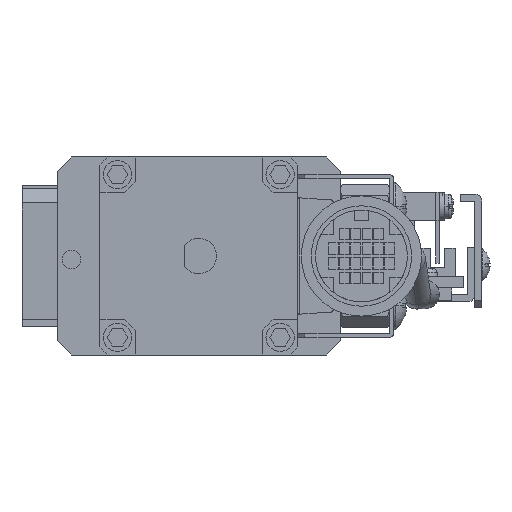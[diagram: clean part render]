
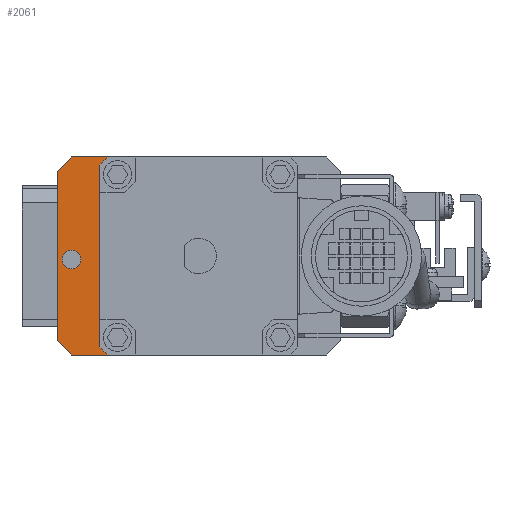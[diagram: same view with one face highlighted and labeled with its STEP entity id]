
A CAD part, left-side view. The second image highlights one B-rep face of the part: STEP entity #2061.
In plain terms, the highlighted planar face has unit normal (-1, 0, 0).
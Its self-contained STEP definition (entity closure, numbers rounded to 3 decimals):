
#393 = DIRECTION ( 'NONE',  ( 0., 1., 0. ) ) ;
#607 = CARTESIAN_POINT ( 'NONE',  ( -80.5, 0., -4. ) ) ;
#854 = ORIENTED_EDGE ( 'NONE', *, *, #65025, .F. ) ;
#866 = EDGE_CURVE ( 'NONE', #1699, #12028, #21255, .T. ) ;
#885 = CARTESIAN_POINT ( 'NONE',  ( -80.5, 16.7, 9.5 ) ) ;
#1191 = VECTOR ( 'NONE', #56565, 1000. ) ;
#1290 = PLANE ( 'NONE',  #39830 ) ;
#1395 = ORIENTED_EDGE ( 'NONE', *, *, #866, .F. ) ;
#1699 = VERTEX_POINT ( 'NONE', #33315 ) ;
#2061 = ADVANCED_FACE ( 'NONE', ( #21209, #7788 ), #1290, .T. ) ;
#2212 = CARTESIAN_POINT ( 'NONE',  ( -80.5, 14., -2.845 ) ) ;
#3324 = LINE ( 'NONE', #13881, #26156 ) ;
#4814 = CARTESIAN_POINT ( 'NONE',  ( -80.5, 18., 9.5 ) ) ;
#5005 = EDGE_CURVE ( 'NONE', #55314, #58124, #32565, .T. ) ;
#5009 = CARTESIAN_POINT ( 'NONE',  ( -80.5, 14., -2.845 ) ) ;
#6383 = CARTESIAN_POINT ( 'NONE',  ( -80.5, 20., 10. ) ) ;
#6521 = DIRECTION ( 'NONE',  ( 0., -1., 0. ) ) ;
#7294 = CARTESIAN_POINT ( 'NONE',  ( -80.5, 18., 9.5 ) ) ;
#7788 = FACE_BOUND ( 'NONE', #56326, .T. ) ;
#9209 = ORIENTED_EDGE ( 'NONE', *, *, #26629, .T. ) ;
#9702 = CARTESIAN_POINT ( 'NONE',  ( -80.5, 20., 22. ) ) ;
#10152 = CIRCLE ( 'NONE', #18027, 19. ) ;
#11184 = CARTESIAN_POINT ( 'NONE',  ( -80.5, 0., 10. ) ) ;
#11366 = CARTESIAN_POINT ( 'NONE',  ( -80.5, 0., 10. ) ) ;
#11875 = DIRECTION ( 'NONE',  ( 0., 0.737, 0.676 ) ) ;
#12028 = VERTEX_POINT ( 'NONE', #41355 ) ;
#12083 = DIRECTION ( 'NONE',  ( 0., 0., 1. ) ) ;
#13881 = CARTESIAN_POINT ( 'NONE',  ( -80.5, 16., 26. ) ) ;
#14724 = EDGE_CURVE ( 'NONE', #35269, #45225, #47295, .T. ) ;
#15157 = AXIS2_PLACEMENT_3D ( 'NONE', #4814, #55408, #39870 ) ;
#15512 = ORIENTED_EDGE ( 'NONE', *, *, #26657, .T. ) ;
#16226 = AXIS2_PLACEMENT_3D ( 'NONE', #7294, #16785, #47243 ) ;
#16785 = DIRECTION ( 'NONE',  ( 1., 0., 0. ) ) ;
#18027 = AXIS2_PLACEMENT_3D ( 'NONE', #11184, #26340, #31366 ) ;
#19051 = EDGE_CURVE ( 'NONE', #1699, #58124, #3324, .T. ) ;
#19389 = CIRCLE ( 'NONE', #36736, 19. ) ;
#19678 = VERTEX_POINT ( 'NONE', #34837 ) ;
#21193 = CARTESIAN_POINT ( 'NONE',  ( -80.5, 14., 22.845 ) ) ;
#21209 = FACE_OUTER_BOUND ( 'NONE', #39108, .T. ) ;
#21255 = LINE ( 'NONE', #24764, #50209 ) ;
#21484 = DIRECTION ( 'NONE',  ( -1., 0., 0. ) ) ;
#21520 = ORIENTED_EDGE ( 'NONE', *, *, #14724, .T. ) ;
#22381 = ORIENTED_EDGE ( 'NONE', *, *, #19051, .T. ) ;
#22399 = DIRECTION ( 'NONE',  ( 1., 0., 0. ) ) ;
#23273 = LINE ( 'NONE', #2212, #56208 ) ;
#24764 = CARTESIAN_POINT ( 'NONE',  ( -80.5, 0., 24. ) ) ;
#26156 = VECTOR ( 'NONE', #33829, 1000. ) ;
#26340 = DIRECTION ( 'NONE',  ( 1., 0., 0. ) ) ;
#26629 = EDGE_CURVE ( 'NONE', #59241, #48559, #23273, .T. ) ;
#26657 = EDGE_CURVE ( 'NONE', #48559, #12028, #19389, .T. ) ;
#26964 = VECTOR ( 'NONE', #393, 1000. ) ;
#27584 = EDGE_CURVE ( 'NONE', #45225, #35269, #48598, .T. ) ;
#28951 = LINE ( 'NONE', #56004, #32090 ) ;
#30081 = CARTESIAN_POINT ( 'NONE',  ( -80.5, 20., -2. ) ) ;
#31366 = DIRECTION ( 'NONE',  ( 0., 0.676, -0.737 ) ) ;
#32090 = VECTOR ( 'NONE', #56219, 1000. ) ;
#32565 = LINE ( 'NONE', #6383, #1191 ) ;
#33081 = ORIENTED_EDGE ( 'NONE', *, *, #27584, .T. ) ;
#33315 = CARTESIAN_POINT ( 'NONE',  ( -80.5, 18., 24. ) ) ;
#33829 = DIRECTION ( 'NONE',  ( 0., 0.707, -0.707 ) ) ;
#34741 = CARTESIAN_POINT ( 'NONE',  ( -80.5, 12.845, -4. ) ) ;
#34837 = CARTESIAN_POINT ( 'NONE',  ( -80.5, 18., -4. ) ) ;
#35269 = VERTEX_POINT ( 'NONE', #885 ) ;
#36002 = ORIENTED_EDGE ( 'NONE', *, *, #5005, .F. ) ;
#36736 = AXIS2_PLACEMENT_3D ( 'NONE', #42137, #22399, #11875 ) ;
#39108 = EDGE_LOOP ( 'NONE', ( #854, #42145, #9209, #15512, #1395, #22381, #36002, #42868 ) ) ;
#39830 = AXIS2_PLACEMENT_3D ( 'NONE', #11366, #21484, #6521 ) ;
#39870 = DIRECTION ( 'NONE',  ( 0., 1., 0. ) ) ;
#41355 = CARTESIAN_POINT ( 'NONE',  ( -80.5, 12.845, 24. ) ) ;
#42137 = CARTESIAN_POINT ( 'NONE',  ( -80.5, 0., 10. ) ) ;
#42145 = ORIENTED_EDGE ( 'NONE', *, *, #62272, .T. ) ;
#42868 = ORIENTED_EDGE ( 'NONE', *, *, #56075, .T. ) ;
#45000 = LINE ( 'NONE', #607, #26964 ) ;
#45225 = VERTEX_POINT ( 'NONE', #55407 ) ;
#47243 = DIRECTION ( 'NONE',  ( 0., 1., 0. ) ) ;
#47295 = CIRCLE ( 'NONE', #15157, 1.3 ) ;
#48559 = VERTEX_POINT ( 'NONE', #21193 ) ;
#48598 = CIRCLE ( 'NONE', #16226, 1.3 ) ;
#50209 = VECTOR ( 'NONE', #54930, 1000. ) ;
#54641 = VERTEX_POINT ( 'NONE', #34741 ) ;
#54930 = DIRECTION ( 'NONE',  ( 0., -1., 0. ) ) ;
#55314 = VERTEX_POINT ( 'NONE', #30081 ) ;
#55407 = CARTESIAN_POINT ( 'NONE',  ( -80.5, 19.3, 9.5 ) ) ;
#55408 = DIRECTION ( 'NONE',  ( 1., 0., 0. ) ) ;
#56004 = CARTESIAN_POINT ( 'NONE',  ( -80.5, 16., -6. ) ) ;
#56075 = EDGE_CURVE ( 'NONE', #55314, #19678, #28951, .T. ) ;
#56208 = VECTOR ( 'NONE', #12083, 1000. ) ;
#56219 = DIRECTION ( 'NONE',  ( 0., -0.707, -0.707 ) ) ;
#56326 = EDGE_LOOP ( 'NONE', ( #33081, #21520 ) ) ;
#56565 = DIRECTION ( 'NONE',  ( 0., 0., 1. ) ) ;
#58124 = VERTEX_POINT ( 'NONE', #9702 ) ;
#59241 = VERTEX_POINT ( 'NONE', #5009 ) ;
#62272 = EDGE_CURVE ( 'NONE', #54641, #59241, #10152, .T. ) ;
#65025 = EDGE_CURVE ( 'NONE', #54641, #19678, #45000, .T. ) ;
